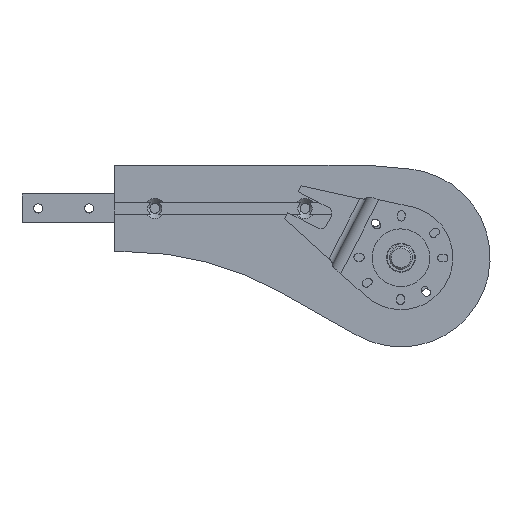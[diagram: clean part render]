
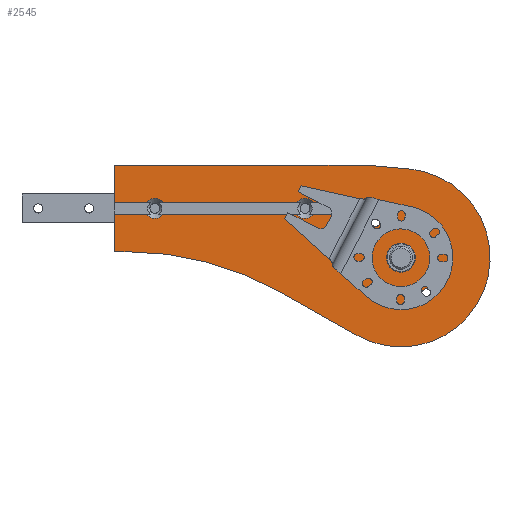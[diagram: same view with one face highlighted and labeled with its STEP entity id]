
A CAD part, front view. The second image highlights one B-rep face of the part: STEP entity #2545.
In plain terms, the highlighted planar face has unit normal (0, -1, 0).
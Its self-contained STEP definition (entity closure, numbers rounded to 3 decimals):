
#77=FACE_BOUND('',#442,.T.);
#78=FACE_BOUND('',#443,.T.);
#79=FACE_BOUND('',#444,.T.);
#80=FACE_BOUND('',#445,.T.);
#81=FACE_BOUND('',#446,.T.);
#152=PLANE('',#2780);
#271=FACE_OUTER_BOUND('',#441,.T.);
#441=EDGE_LOOP('',(#2159,#2160,#2161,#2162,#2163,#2164,#2165,#2166,#2167,
#2168,#2169,#2170,#2171,#2172,#2173,#2174,#2175,#2176,#2177,#2178,#2179));
#442=EDGE_LOOP('',(#2180));
#443=EDGE_LOOP('',(#2181));
#444=EDGE_LOOP('',(#2182));
#445=EDGE_LOOP('',(#2183));
#446=EDGE_LOOP('',(#2184));
#622=LINE('',#4411,#848);
#625=LINE('',#4416,#851);
#628=LINE('',#4424,#854);
#631=LINE('',#4432,#857);
#653=LINE('',#4499,#879);
#657=LINE('',#4506,#883);
#668=LINE('',#4538,#894);
#678=LINE('',#4566,#904);
#680=LINE('',#4576,#906);
#681=LINE('',#4582,#907);
#684=LINE('',#4609,#910);
#685=LINE('',#4610,#911);
#848=VECTOR('',#3219,10.);
#851=VECTOR('',#3224,10.);
#854=VECTOR('',#3233,10.);
#857=VECTOR('',#3242,10.);
#879=VECTOR('',#3306,10.);
#883=VECTOR('',#3310,10.);
#894=VECTOR('',#3333,10.);
#904=VECTOR('',#3363,10.);
#906=VECTOR('',#3371,10.);
#907=VECTOR('',#3374,10.);
#910=VECTOR('',#3399,10.);
#911=VECTOR('',#3400,10.);
#979=CIRCLE('',#2707,8.65);
#980=CIRCLE('',#2709,8.65);
#993=CIRCLE('',#2726,77.2);
#994=CIRCLE('',#2729,270.);
#995=CIRCLE('',#2732,4.);
#996=CIRCLE('',#2734,4.);
#997=CIRCLE('',#2736,4.);
#998=CIRCLE('',#2738,4.);
#1006=CIRCLE('',#2756,55.);
#1013=CIRCLE('',#2775,8.65);
#1015=CIRCLE('',#2777,8.65);
#1017=CIRCLE('',#2781,8.65);
#1018=CIRCLE('',#2782,8.65);
#1019=CIRCLE('',#2783,12.5);
#1158=VERTEX_POINT('',#4345);
#1159=VERTEX_POINT('',#4347);
#1161=VERTEX_POINT('',#4354);
#1162=VERTEX_POINT('',#4356);
#1185=VERTEX_POINT('',#4409);
#1186=VERTEX_POINT('',#4410);
#1187=VERTEX_POINT('',#4415);
#1188=VERTEX_POINT('',#4419);
#1189=VERTEX_POINT('',#4423);
#1190=VERTEX_POINT('',#4427);
#1191=VERTEX_POINT('',#4431);
#1192=VERTEX_POINT('',#4435);
#1193=VERTEX_POINT('',#4439);
#1194=VERTEX_POINT('',#4443);
#1195=VERTEX_POINT('',#4447);
#1211=VERTEX_POINT('',#4496);
#1215=VERTEX_POINT('',#4505);
#1225=VERTEX_POINT('',#4528);
#1226=VERTEX_POINT('',#4530);
#1227=VERTEX_POINT('',#4534);
#1237=VERTEX_POINT('',#4572);
#1238=VERTEX_POINT('',#4578);
#1240=VERTEX_POINT('',#4587);
#1243=VERTEX_POINT('',#4595);
#1245=VERTEX_POINT('',#4606);
#1246=VERTEX_POINT('',#4611);
#1446=EDGE_CURVE('',#1159,#1158,#979,.T.);
#1449=EDGE_CURVE('',#1162,#1161,#980,.T.);
#1474=EDGE_CURVE('',#1185,#1186,#622,.T.);
#1477=EDGE_CURVE('',#1187,#1185,#625,.T.);
#1479=EDGE_CURVE('',#1188,#1187,#993,.T.);
#1481=EDGE_CURVE('',#1189,#1188,#628,.T.);
#1483=EDGE_CURVE('',#1190,#1189,#994,.T.);
#1485=EDGE_CURVE('',#1191,#1190,#631,.T.);
#1488=EDGE_CURVE('',#1192,#1192,#995,.T.);
#1490=EDGE_CURVE('',#1193,#1193,#996,.T.);
#1492=EDGE_CURVE('',#1194,#1194,#997,.T.);
#1494=EDGE_CURVE('',#1195,#1195,#998,.T.);
#1517=EDGE_CURVE('',#1186,#1211,#653,.T.);
#1521=EDGE_CURVE('',#1215,#1191,#657,.T.);
#1533=EDGE_CURVE('',#1225,#1226,#1006,.T.);
#1536=EDGE_CURVE('',#1227,#1211,#668,.T.);
#1550=EDGE_CURVE('',#1226,#1162,#678,.T.);
#1554=EDGE_CURVE('',#1215,#1237,#680,.T.);
#1556=EDGE_CURVE('',#1238,#1225,#681,.T.);
#1558=EDGE_CURVE('',#1161,#1240,#1013,.T.);
#1562=EDGE_CURVE('',#1243,#1238,#1015,.T.);
#1566=EDGE_CURVE('',#1237,#1245,#1017,.T.);
#1567=EDGE_CURVE('',#1158,#1227,#1018,.T.);
#1568=EDGE_CURVE('',#1240,#1159,#684,.T.);
#1569=EDGE_CURVE('',#1245,#1243,#685,.T.);
#1570=EDGE_CURVE('',#1246,#1246,#1019,.T.);
#2159=ORIENTED_EDGE('',*,*,#1566,.F.);
#2160=ORIENTED_EDGE('',*,*,#1554,.F.);
#2161=ORIENTED_EDGE('',*,*,#1521,.T.);
#2162=ORIENTED_EDGE('',*,*,#1485,.T.);
#2163=ORIENTED_EDGE('',*,*,#1483,.T.);
#2164=ORIENTED_EDGE('',*,*,#1481,.T.);
#2165=ORIENTED_EDGE('',*,*,#1479,.T.);
#2166=ORIENTED_EDGE('',*,*,#1477,.T.);
#2167=ORIENTED_EDGE('',*,*,#1474,.T.);
#2168=ORIENTED_EDGE('',*,*,#1517,.T.);
#2169=ORIENTED_EDGE('',*,*,#1536,.F.);
#2170=ORIENTED_EDGE('',*,*,#1567,.F.);
#2171=ORIENTED_EDGE('',*,*,#1446,.F.);
#2172=ORIENTED_EDGE('',*,*,#1568,.F.);
#2173=ORIENTED_EDGE('',*,*,#1558,.F.);
#2174=ORIENTED_EDGE('',*,*,#1449,.F.);
#2175=ORIENTED_EDGE('',*,*,#1550,.F.);
#2176=ORIENTED_EDGE('',*,*,#1533,.F.);
#2177=ORIENTED_EDGE('',*,*,#1556,.F.);
#2178=ORIENTED_EDGE('',*,*,#1562,.F.);
#2179=ORIENTED_EDGE('',*,*,#1569,.F.);
#2180=ORIENTED_EDGE('',*,*,#1570,.F.);
#2181=ORIENTED_EDGE('',*,*,#1494,.F.);
#2182=ORIENTED_EDGE('',*,*,#1492,.F.);
#2183=ORIENTED_EDGE('',*,*,#1490,.F.);
#2184=ORIENTED_EDGE('',*,*,#1488,.F.);
#2545=ADVANCED_FACE('',(#271,#77,#78,#79,#80,#81),#152,.T.);
#2707=AXIS2_PLACEMENT_3D('',#4351,#3172,#3173);
#2709=AXIS2_PLACEMENT_3D('',#4360,#3177,#3178);
#2726=AXIS2_PLACEMENT_3D('',#4420,#3228,#3229);
#2729=AXIS2_PLACEMENT_3D('',#4428,#3237,#3238);
#2732=AXIS2_PLACEMENT_3D('',#4437,#3247,#3248);
#2734=AXIS2_PLACEMENT_3D('',#4441,#3252,#3253);
#2736=AXIS2_PLACEMENT_3D('',#4445,#3257,#3258);
#2738=AXIS2_PLACEMENT_3D('',#4449,#3262,#3263);
#2756=AXIS2_PLACEMENT_3D('',#4531,#3328,#3329);
#2775=AXIS2_PLACEMENT_3D('',#4588,#3381,#3382);
#2777=AXIS2_PLACEMENT_3D('',#4599,#3385,#3386);
#2780=AXIS2_PLACEMENT_3D('',#4605,#3393,#3394);
#2781=AXIS2_PLACEMENT_3D('',#4607,#3395,#3396);
#2782=AXIS2_PLACEMENT_3D('',#4608,#3397,#3398);
#2783=AXIS2_PLACEMENT_3D('',#4612,#3401,#3402);
#3172=DIRECTION('center_axis',(0.,-1.,0.));
#3173=DIRECTION('ref_axis',(-0.582,0.,-0.813));
#3177=DIRECTION('center_axis',(0.,-1.,0.));
#3178=DIRECTION('ref_axis',(-0.582,0.,-0.813));
#3219=DIRECTION('',(-1.,0.,0.));
#3224=DIRECTION('',(-0.996,0.,0.087));
#3228=DIRECTION('center_axis',(0.,-1.,0.));
#3229=DIRECTION('ref_axis',(-0.493,0.,-0.87));
#3233=DIRECTION('',(0.87,0.,-0.493));
#3237=DIRECTION('center_axis',(0.,1.,0.));
#3238=DIRECTION('ref_axis',(-0.493,0.,-0.87));
#3242=DIRECTION('',(1.,0.,0.));
#3247=DIRECTION('center_axis',(0.,-1.,0.));
#3248=DIRECTION('ref_axis',(-1.,0.,0.));
#3252=DIRECTION('center_axis',(0.,-1.,0.));
#3253=DIRECTION('ref_axis',(-1.,0.,0.));
#3257=DIRECTION('center_axis',(0.,-1.,0.));
#3258=DIRECTION('ref_axis',(-1.,0.,0.));
#3262=DIRECTION('center_axis',(0.,-1.,0.));
#3263=DIRECTION('ref_axis',(-1.,0.,0.));
#3306=DIRECTION('',(0.,0.,-1.));
#3310=DIRECTION('',(0.,0.,-1.));
#3328=DIRECTION('center_axis',(0.,1.,0.));
#3329=DIRECTION('ref_axis',(-0.498,0.,0.867));
#3333=DIRECTION('',(-1.,0.,0.));
#3363=DIRECTION('',(-1.,0.,0.));
#3371=DIRECTION('',(1.,0.,0.));
#3374=DIRECTION('',(1.,0.,0.));
#3381=DIRECTION('center_axis',(0.,-1.,0.));
#3382=DIRECTION('ref_axis',(-0.582,0.,-0.813));
#3385=DIRECTION('center_axis',(0.,-1.,0.));
#3386=DIRECTION('ref_axis',(-0.582,0.,-0.813));
#3393=DIRECTION('center_axis',(0.,-1.,0.));
#3394=DIRECTION('ref_axis',(0.,0.,1.));
#3395=DIRECTION('center_axis',(0.,-1.,0.));
#3396=DIRECTION('ref_axis',(-0.582,0.,-0.813));
#3397=DIRECTION('center_axis',(0.,-1.,0.));
#3398=DIRECTION('ref_axis',(-0.582,0.,-0.813));
#3399=DIRECTION('',(-1.,0.,0.));
#3400=DIRECTION('',(1.,0.,0.));
#3401=DIRECTION('center_axis',(0.,-1.,0.));
#3402=DIRECTION('ref_axis',(1.,0.,0.));
#4345=CARTESIAN_POINT('',(-290.461,-52.5,7.033));
#4347=CARTESIAN_POINT('',(-288.439,-52.5,5.));
#4351=CARTESIAN_POINT('Origin',(-295.498,-52.5,0.));
#4354=CARTESIAN_POINT('',(-160.464,-52.5,7.033));
#4356=CARTESIAN_POINT('',(-158.441,-52.5,5.));
#4360=CARTESIAN_POINT('Origin',(-165.5,-52.5,0.));
#4409=CARTESIAN_POINT('',(-113.5,-52.5,37.5));
#4410=CARTESIAN_POINT('',(-330.5,-52.5,37.5));
#4411=CARTESIAN_POINT('',(-113.5,-52.5,37.5));
#4415=CARTESIAN_POINT('',(-75.786,-52.5,34.207));
#4416=CARTESIAN_POINT('',(-75.786,-52.5,34.207));
#4419=CARTESIAN_POINT('',(-120.538,-52.5,-109.879));
#4420=CARTESIAN_POINT('Origin',(-82.5,-52.5,-42.7));
#4423=CARTESIAN_POINT('',(-186.467,-52.5,-72.549));
#4424=CARTESIAN_POINT('',(-186.467,-52.5,-72.549));
#4427=CARTESIAN_POINT('',(-319.5,-52.5,-37.5));
#4428=CARTESIAN_POINT('Origin',(-319.5,-52.5,-307.5));
#4431=CARTESIAN_POINT('',(-330.5,-52.5,-37.5));
#4432=CARTESIAN_POINT('',(-330.5,-52.5,-37.5));
#4435=CARTESIAN_POINT('',(-56.5,-52.5,-11.7));
#4437=CARTESIAN_POINT('Origin',(-60.5,-52.5,-11.7));
#4439=CARTESIAN_POINT('',(-56.5,-52.5,-73.7));
#4441=CARTESIAN_POINT('Origin',(-60.5,-52.5,-73.7));
#4443=CARTESIAN_POINT('',(-100.5,-52.5,-11.7));
#4445=CARTESIAN_POINT('Origin',(-104.5,-52.5,-11.7));
#4447=CARTESIAN_POINT('',(-100.5,-52.5,-73.7));
#4449=CARTESIAN_POINT('Origin',(-104.5,-52.5,-73.7));
#4496=CARTESIAN_POINT('',(-330.5,-52.5,5.));
#4499=CARTESIAN_POINT('',(-330.5,-52.5,37.5));
#4505=CARTESIAN_POINT('',(-330.5,-52.5,-5.));
#4506=CARTESIAN_POINT('',(-330.5,-52.5,37.5));
#4528=CARTESIAN_POINT('',(-122.546,-52.5,-5.));
#4530=CARTESIAN_POINT('',(-109.881,-52.5,5.));
#4531=CARTESIAN_POINT('Origin',(-82.5,-52.5,-42.7));
#4534=CARTESIAN_POINT('',(-302.556,-52.5,5.));
#4538=CARTESIAN_POINT('',(-249.379,-52.5,5.));
#4566=CARTESIAN_POINT('',(-249.379,-52.5,5.));
#4572=CARTESIAN_POINT('',(-302.556,-52.5,-5.));
#4576=CARTESIAN_POINT('',(-145.402,-52.5,-5.));
#4578=CARTESIAN_POINT('',(-158.441,-52.5,-5.));
#4582=CARTESIAN_POINT('',(-145.402,-52.5,-5.));
#4587=CARTESIAN_POINT('',(-172.559,-52.5,5.));
#4588=CARTESIAN_POINT('Origin',(-165.5,-52.5,0.));
#4595=CARTESIAN_POINT('',(-172.559,-52.5,-5.));
#4599=CARTESIAN_POINT('Origin',(-165.5,-52.5,0.));
#4605=CARTESIAN_POINT('Origin',(-168.259,-52.5,-23.478));
#4606=CARTESIAN_POINT('',(-288.439,-52.5,-5.));
#4607=CARTESIAN_POINT('Origin',(-295.498,-52.5,0.));
#4608=CARTESIAN_POINT('Origin',(-295.498,-52.5,0.));
#4609=CARTESIAN_POINT('',(-249.379,-52.5,5.));
#4610=CARTESIAN_POINT('',(-145.402,-52.5,-5.));
#4611=CARTESIAN_POINT('',(-95.,-52.5,-42.7));
#4612=CARTESIAN_POINT('Origin',(-82.5,-52.5,-42.7));
